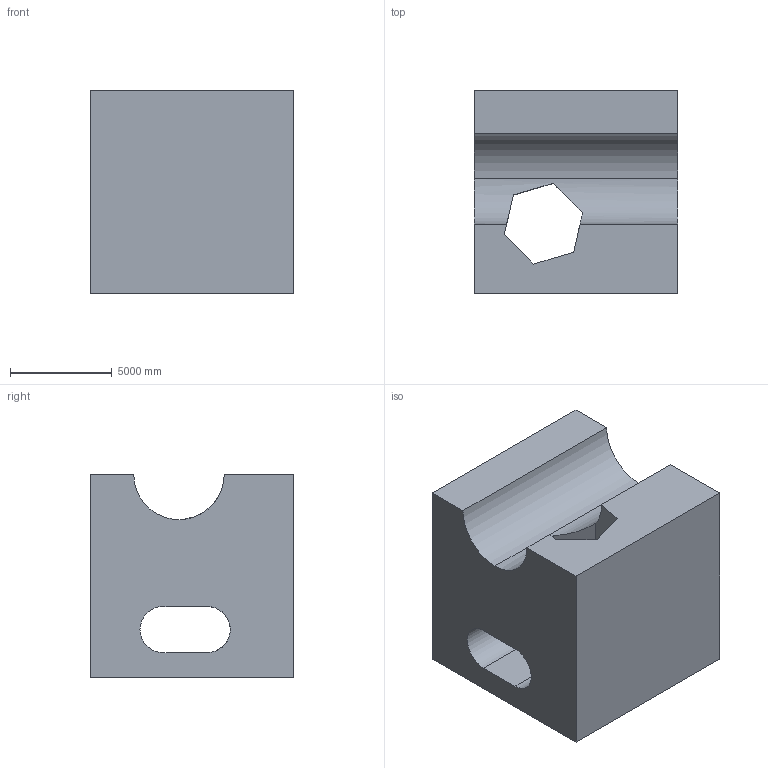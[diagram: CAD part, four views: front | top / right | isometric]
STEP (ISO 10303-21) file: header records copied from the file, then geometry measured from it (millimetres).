
FILE_DESCRIPTION (( 'STEP AP203' ), '1' );
FILE_NAME ('279.STEP', '2022-09-07T15:13:01', ( 'user' ), ( '' ), 'SwSTEP 2.0', 'SolidWorks 2021', '' );
FILE_SCHEMA (( 'CONFIG_CONTROL_DESIGN' ));
Length unit declared in the file: centimetre
Products named in the file (1): 279
Bounding box: 10000 x 10000 x 10000 mm (x, y, z)
Volume: 741998156623.6 mm3; surface area: 756643707.1 mm2
Topology: 1 solids, 1 shells, 24 faces, 75 edges, 50 vertices
Faces by surface type: plane 18, cylinder 6
Entity records: 959 total; most frequent: CARTESIAN_POINT 213, ORIENTED_EDGE 150, DIRECTION 128, EDGE_CURVE 75, VECTOR 56, LINE 56, VERTEX_POINT 50, AXIS2_PLACEMENT_3D 36
